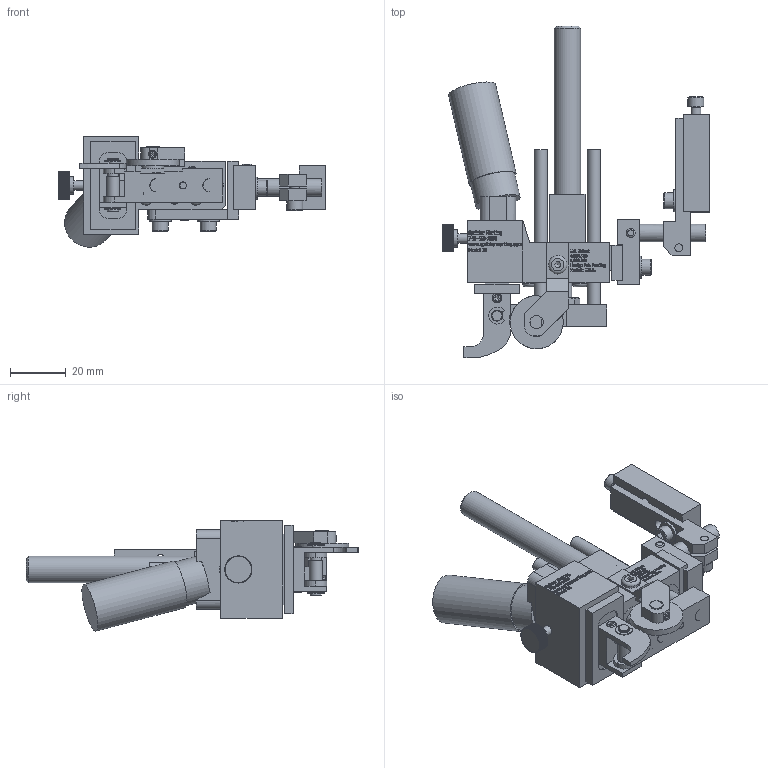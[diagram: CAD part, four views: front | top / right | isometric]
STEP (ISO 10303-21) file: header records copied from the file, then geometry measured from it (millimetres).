
FILE_DESCRIPTION((''),'2;1');
FILE_NAME('C:\Documents and Settings\Ron\My Documents\Inventor\Sprinter Drawing\Machines in Inventor\Model 28\Type\Std\Brkt\Ret\Model 28 Std Type Ret w brkt.stp','2009-01-14T10:31:08',('Ron'),(''),'Autodesk Inventor 2008','Autodesk Inventor 2008','');
FILE_SCHEMA(('AUTOMOTIVE_DESIGN { 1 0 10303 214 1 1 1 1 }'));
Length unit declared in the file: inch
Products named in the file (1): Model 28 Std Type Ret w brkt
Bounding box: 95.97 x 119.14 x 39.63 mm (x, y, z)
Volume: 67246.9 mm3; surface area: 36986.7 mm2
Topology: 35 solids, 35 shells, 4156 faces, 11292 edges, 7491 vertices
Faces by surface type: plane 2428, bspline 1349, cylinder 315, cone 50, torus 14
Full cylindrical faces by diameter (mm): 2.337 x1, 2.845 x3, 2.946 x2, 3.048 x1, 3.175 x3, 3.454 x1, 3.505 x7, 3.658 x1, 3.876 x1, 3.962 x9, 3.988 x1, 4.064 x1, 4.166 x2, 4.648 x2, 4.699 x1, 4.75 x1, 4.763 x2, 4.775 x2, 4.788 x1, 5.41 x2, 5.74 x6, 6.096 x1, 6.325 x2, 6.35 x2, 6.655 x1, 7.239 x1, 7.925 x4, 7.938 x1, 8.128 x1, 9.525 x1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
Entity records: 142985 total; most frequent: CARTESIAN_POINT 46210, ORIENTED_EDGE 22052, DIRECTION 14798, EDGE_CURVE 11026, VECTOR 7502, LINE 7502, VERTEX_POINT 7396, EDGE_LOOP 4684
